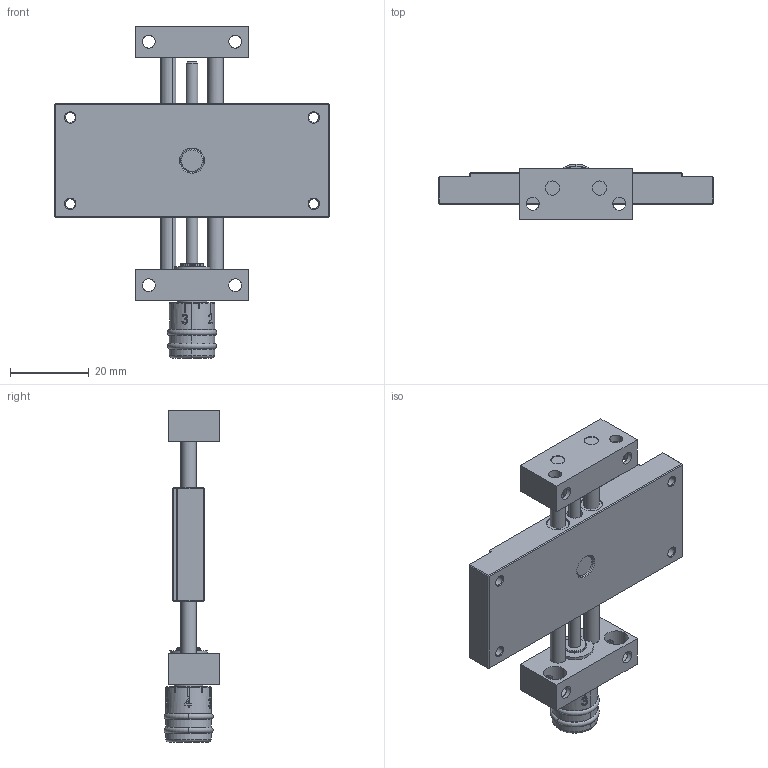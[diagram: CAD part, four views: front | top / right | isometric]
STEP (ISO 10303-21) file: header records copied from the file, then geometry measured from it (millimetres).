
FILE_DESCRIPTION (( 'STEP AP203' ), '1' );
FILE_NAME ('KT2304-L-SK-Kreuztisch.STEP', '2016-01-15T16:53:48', ( '' ), ( '' ), 'SwSTEP 2.0', 'SolidWorks 2014', '' );
FILE_SCHEMA (( 'CONFIG_CONTROL_DESIGN' ));
Length unit declared in the file: millimetre
Products named in the file (3): PT2304-000-01-Festteil; KT04-000-03-L-Schlitten-komplett; KT2304-L-SK-Kreuztisch
Assembly tree (2 placements, depth 2):
  KT2304-L-SK-Kreuztisch
    PT2304-000-01-Festteil
    KT04-000-03-L-Schlitten-komplett
Bounding box: 70 x 14.25 x 84.54 mm (x, y, z)
Volume: 21839.8 mm3; surface area: 13900.3 mm2
Topology: 2 solids, 4 shells, 456 faces, 1108 edges, 700 vertices
Faces by surface type: plane 160, cylinder 155, cone 80, bspline 41, torus 18, sphere 2
Entity records: 19326 total; most frequent: CARTESIAN_POINT 8335, DIRECTION 2232, ORIENTED_EDGE 2212, EDGE_CURVE 1106, AXIS2_PLACEMENT_3D 892, VERTEX_POINT 700, EDGE_LOOP 542, CIRCLE 472
